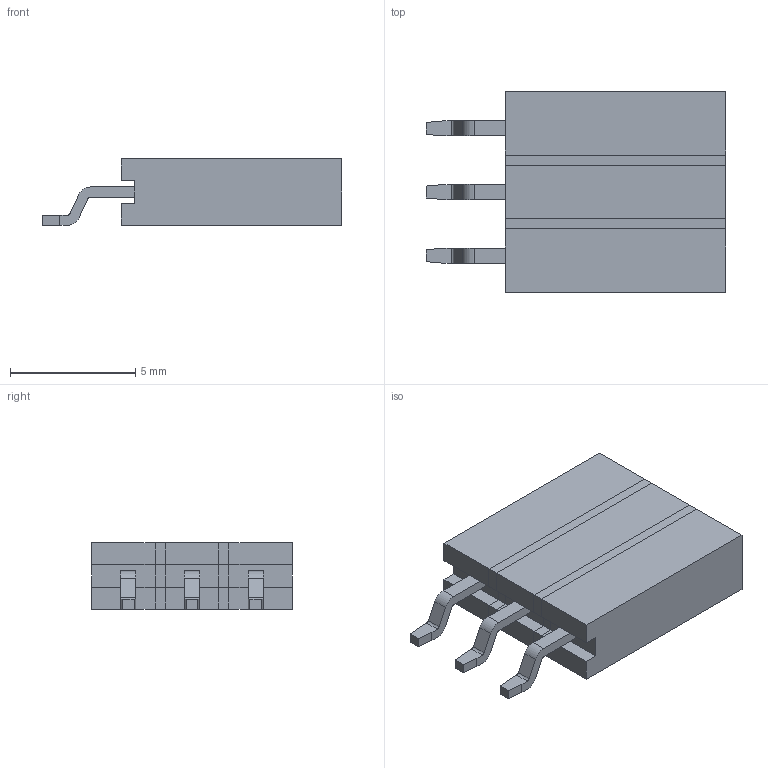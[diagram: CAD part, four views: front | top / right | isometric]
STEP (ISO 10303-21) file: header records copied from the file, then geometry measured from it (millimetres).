
FILE_DESCRIPTION(('FreeCAD Model'),'2;1');
FILE_NAME('Open CASCADE Shape Model','2025-02-26T21:56:36',( 'Krisjanis Rijnieks'),(''),'Open CASCADE STEP processor 7.7', 'FreeCAD','Unknown');
FILE_SCHEMA(('AUTOMOTIVE_DESIGN { 1 0 10303 214 1 1 1 1 }'));
Length unit declared in the file: millimetre
Products named in the file (11): 01x03_P2.54mm_Horizontal_SMD; 01x01_P2.54mm_Horizontal_SMD003; HorizontalLead003; HorizontalSocket003; 01x02_P2.54mm_Horizontal_SMD001; 01x01_P2.54mm_Horizontal_SMD004; HorizontalLead004; HorizontalSocket004; 01x01_P2.54mm_Horizontal_SMD005; HorizontalLead005; HorizontalSocket005
Assembly tree (10 placements, depth 4):
  01x03_P2.54mm_Horizontal_SMD
    01x01_P2.54mm_Horizontal_SMD003
      HorizontalLead003
      HorizontalSocket003
    01x02_P2.54mm_Horizontal_SMD001
      01x01_P2.54mm_Horizontal_SMD004
        HorizontalLead004
        HorizontalSocket004
      01x01_P2.54mm_Horizontal_SMD005
        HorizontalLead005
        HorizontalSocket005
Bounding box: 11.95 x 8.02 x 2.65 mm (x, y, z)
Volume: 192.8 mm3; surface area: 445.5 mm2
Topology: 6 solids, 6 shells, 105 faces, 258 edges, 168 vertices
Faces by surface type: plane 93, cylinder 12
Entity records: 3283 total; most frequent: CARTESIAN_POINT 542, ORIENTED_EDGE 516, DIRECTION 514, EDGE_CURVE 258, LINE 234, VECTOR 234, VERTEX_POINT 168, AXIS2_PLACEMENT_3D 140
